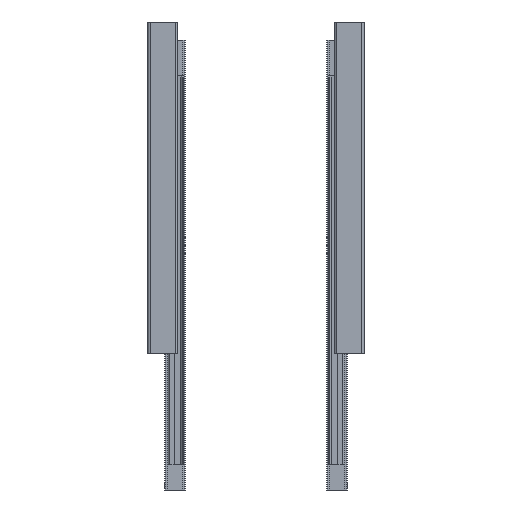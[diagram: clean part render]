
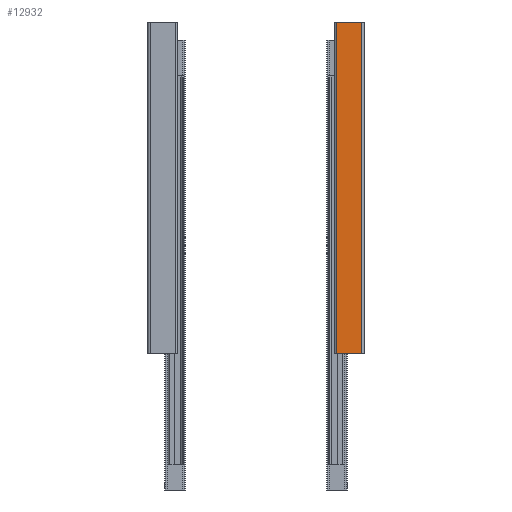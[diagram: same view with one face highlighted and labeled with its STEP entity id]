
A CAD part, front view. The second image highlights one B-rep face of the part: STEP entity #12932.
In plain terms, the highlighted planar face has unit normal (0, -1, 0).
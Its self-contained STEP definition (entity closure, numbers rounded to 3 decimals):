
#326 = DIRECTION ( 'NONE',  ( -1., 0., 0. ) ) ;
#642 = CARTESIAN_POINT ( 'NONE',  ( -37.9, 0., -464. ) ) ;
#1203 = VECTOR ( 'NONE', #6394, 1000. ) ;
#1401 = VERTEX_POINT ( 'NONE', #14307 ) ;
#1514 = CARTESIAN_POINT ( 'NONE',  ( -2.8, 0., -4. ) ) ;
#1962 = EDGE_CURVE ( 'NONE', #10978, #12534, #8074, .T. ) ;
#2113 = DIRECTION ( 'NONE',  ( 0., 0., 1. ) ) ;
#2483 = VERTEX_POINT ( 'NONE', #14264 ) ;
#3382 = VECTOR ( 'NONE', #2113, 1000. ) ;
#3643 = ORIENTED_EDGE ( 'NONE', *, *, #1962, .T. ) ;
#4445 = VECTOR ( 'NONE', #326, 1000. ) ;
#4722 = DIRECTION ( 'NONE',  ( 0., 0., 1. ) ) ;
#5318 = ORIENTED_EDGE ( 'NONE', *, *, #7672, .T. ) ;
#5677 = CARTESIAN_POINT ( 'NONE',  ( -2.8, 0., -464. ) ) ;
#5699 = CARTESIAN_POINT ( 'NONE',  ( -37.9, 0., -4. ) ) ;
#5781 = DIRECTION ( 'NONE',  ( 0., 0., 1. ) ) ;
#6394 = DIRECTION ( 'NONE',  ( -1., 0., 0. ) ) ;
#6962 = AXIS2_PLACEMENT_3D ( 'NONE', #8626, #15160, #4722 ) ;
#7666 = CARTESIAN_POINT ( 'NONE',  ( -40.7, 0., -464. ) ) ;
#7672 = EDGE_CURVE ( 'NONE', #2483, #10978, #9548, .T. ) ;
#7765 = ORIENTED_EDGE ( 'NONE', *, *, #11297, .F. ) ;
#8074 = LINE ( 'NONE', #13602, #4445 ) ;
#8626 = CARTESIAN_POINT ( 'NONE',  ( -40.7, 0., -464. ) ) ;
#9548 = LINE ( 'NONE', #5677, #16085 ) ;
#10978 = VERTEX_POINT ( 'NONE', #1514 ) ;
#11297 = EDGE_CURVE ( 'NONE', #1401, #12534, #14101, .T. ) ;
#11427 = FACE_OUTER_BOUND ( 'NONE', #13871, .T. ) ;
#12534 = VERTEX_POINT ( 'NONE', #5699 ) ;
#12932 = ADVANCED_FACE ( 'NONE', ( #11427 ), #16731, .F. ) ;
#13010 = ORIENTED_EDGE ( 'NONE', *, *, #15061, .F. ) ;
#13602 = CARTESIAN_POINT ( 'NONE',  ( -40.7, 0., -4. ) ) ;
#13871 = EDGE_LOOP ( 'NONE', ( #3643, #7765, #13010, #5318 ) ) ;
#14101 = LINE ( 'NONE', #642, #3382 ) ;
#14177 = LINE ( 'NONE', #7666, #1203 ) ;
#14264 = CARTESIAN_POINT ( 'NONE',  ( -2.8, 0., -464. ) ) ;
#14307 = CARTESIAN_POINT ( 'NONE',  ( -37.9, 0., -464. ) ) ;
#15061 = EDGE_CURVE ( 'NONE', #2483, #1401, #14177, .T. ) ;
#15160 = DIRECTION ( 'NONE',  ( 0., 1., 0. ) ) ;
#16085 = VECTOR ( 'NONE', #5781, 1000. ) ;
#16731 = PLANE ( 'NONE',  #6962 ) ;
